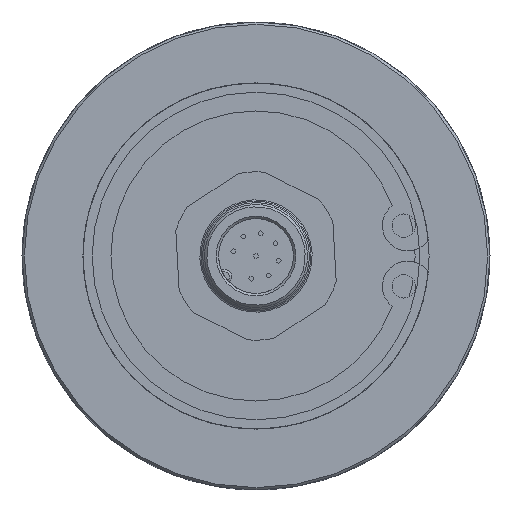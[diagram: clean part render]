
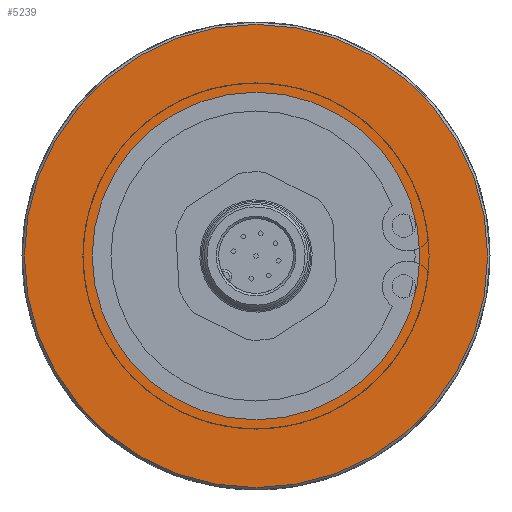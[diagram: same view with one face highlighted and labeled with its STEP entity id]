
A CAD part, left-side view. The second image highlights one B-rep face of the part: STEP entity #5239.
In plain terms, the highlighted planar face has unit normal (-1, 0, 0).
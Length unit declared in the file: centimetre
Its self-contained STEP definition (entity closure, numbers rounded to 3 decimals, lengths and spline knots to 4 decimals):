
#1215=PLANE('',#5591);
#1433=VERTEX_POINT('',#6110);
#1442=VERTEX_POINT('',#6123);
#1918=CIRCLE('',#5588,2.475);
#1920=CIRCLE('',#5592,1.75);
#2153=EDGE_CURVE('',#1433,#1433,#1918,.T.);
#2162=EDGE_CURVE('',#1442,#1442,#1920,.T.);
#2860=ORIENTED_EDGE('',*,*,#2162,.T.);
#2861=ORIENTED_EDGE('',*,*,#2153,.F.);
#4267=EDGE_LOOP('',(#2860));
#4268=EDGE_LOOP('',(#2861));
#4753=FACE_BOUND('',#4267,.T.);
#4754=FACE_BOUND('',#4268,.T.);
#5239=ADVANCED_FACE('',(#4753,#4754),#1215,.F.);
#5588=AXIS2_PLACEMENT_3D('',#6109,#8174,#8175);
#5591=AXIS2_PLACEMENT_3D('',#6121,#8180,$);
#5592=AXIS2_PLACEMENT_3D('',#6122,#8181,#8182);
#6109=CARTESIAN_POINT('',(0.,0.,0.));
#6110=CARTESIAN_POINT('',(0.,0.,-2.475));
#6121=CARTESIAN_POINT('',(0.,0.,0.));
#6122=CARTESIAN_POINT('',(0.,0.,0.));
#6123=CARTESIAN_POINT('',(0.,0.,-1.75));
#8174=DIRECTION('',(1.,0.,0.));
#8175=DIRECTION('',(0.,0.,2.475));
#8180=DIRECTION('',(1.,0.,0.));
#8181=DIRECTION('',(1.,0.,0.));
#8182=DIRECTION('',(0.,0.,-1.75));
